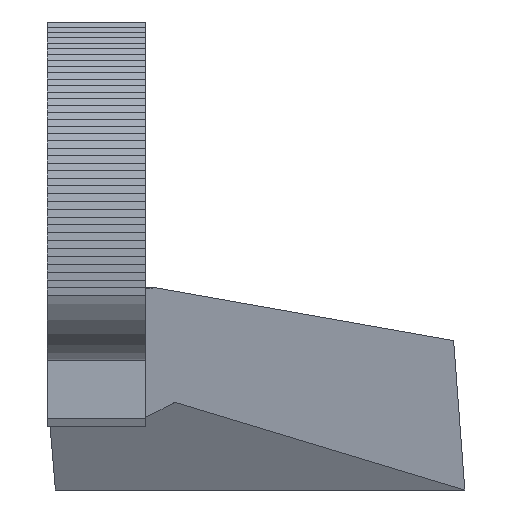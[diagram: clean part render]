
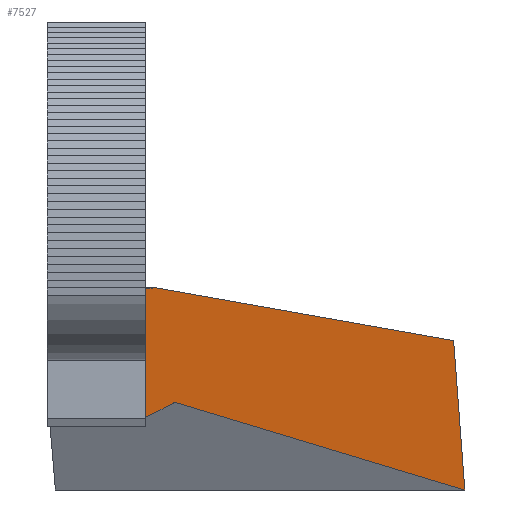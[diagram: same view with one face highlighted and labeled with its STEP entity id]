
A CAD part, top view. The second image highlights one B-rep face of the part: STEP entity #7527.
In plain terms, the highlighted planar face has unit normal (0.854, 0, 0.52).
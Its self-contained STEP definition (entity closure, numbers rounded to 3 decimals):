
#32 = PLANE('',#33);
#33 = AXIS2_PLACEMENT_3D('',#34,#35,#36);
#34 = CARTESIAN_POINT('',(-27.,-10.595,-88.));
#35 = DIRECTION('',(0.,-0.994,0.106));
#36 = DIRECTION('',(0.,0.106,0.994));
#55 = VERTEX_POINT('',#56);
#56 = CARTESIAN_POINT('',(23.626,-10.355,
    -85.746));
#69 = PLANE('',#70);
#70 = AXIS2_PLACEMENT_3D('',#71,#72,#73);
#71 = CARTESIAN_POINT('',(-60.,-68.084,-92.834));
#72 = DIRECTION('',(0.,-0.122,0.993));
#73 = DIRECTION('',(1.,0.,0.));
#80 = EDGE_CURVE('',#81,#55,#83,.T.);
#81 = VERTEX_POINT('',#82);
#82 = CARTESIAN_POINT('',(-12.781,-4.,-26.));
#83 = SURFACE_CURVE('',#84,(#88,#94),.PCURVE_S1.);
#84 = LINE('',#85,#86);
#85 = CARTESIAN_POINT('',(16.831,-9.169,
    -74.595));
#86 = VECTOR('',#87,1.);
#87 = DIRECTION('',(0.518,-0.09,-0.85)
  );
#88 = PCURVE('',#32,#89);
#89 = DEFINITIONAL_REPRESENTATION('',(#90),#93);
#90 = B_SPLINE_CURVE_WITH_KNOTS('',1,(#91,#92),.UNSPECIFIED.,.F.,.F.,(2,
    2),(-57.141,15.763),.PIECEWISE_BEZIER_KNOTS.);
#91 = CARTESIAN_POINT('',(62.35,-14.219));
#92 = CARTESIAN_POINT('',(0.,-52.));
#93 = ( GEOMETRIC_REPRESENTATION_CONTEXT(2) 
PARAMETRIC_REPRESENTATION_CONTEXT() REPRESENTATION_CONTEXT('2D SPACE',''
  ) );
#94 = PCURVE('',#95,#100);
#95 = PLANE('',#96);
#96 = AXIS2_PLACEMENT_3D('',#97,#98,#99);
#97 = CARTESIAN_POINT('',(25.,40.,-88.));
#98 = DIRECTION('',(-0.854,-0.,-0.52));
#99 = DIRECTION('',(-0.52,0.,0.854));
#100 = DEFINITIONAL_REPRESENTATION('',(#101),#104);
#101 = B_SPLINE_CURVE_WITH_KNOTS('',1,(#102,#103),.UNSPECIFIED.,.F.,.F.,
  (2,2),(-57.141,15.763),.PIECEWISE_BEZIER_KNOTS.);
#102 = CARTESIAN_POINT('',(72.605,-44.));
#103 = CARTESIAN_POINT('',(0.,-50.595));
#104 = ( GEOMETRIC_REPRESENTATION_CONTEXT(2) 
PARAMETRIC_REPRESENTATION_CONTEXT() REPRESENTATION_CONTEXT('2D SPACE',''
  ) );
#120 = PLANE('',#121);
#121 = AXIS2_PLACEMENT_3D('',#122,#123,#124);
#122 = CARTESIAN_POINT('',(-27.,-4.,-26.));
#123 = DIRECTION('',(0.,-0.998,-0.067));
#124 = DIRECTION('',(0.,-0.067,0.998));
#135 = EDGE_CURVE('',#136,#55,#138,.T.);
#136 = VERTEX_POINT('',#137);
#137 = CARTESIAN_POINT('',(24.991,-28.592,
    -87.985));
#138 = SURFACE_CURVE('',#139,(#143,#149),.PCURVE_S1.);
#139 = LINE('',#140,#141);
#140 = CARTESIAN_POINT('',(23.713,-11.514,
    -85.888));
#141 = VECTOR('',#142,1.);
#142 = DIRECTION('',(-0.074,0.99,0.122)
  );
#143 = PCURVE('',#69,#144);
#144 = DEFINITIONAL_REPRESENTATION('',(#145),#148);
#145 = B_SPLINE_CURVE_WITH_KNOTS('',1,(#146,#147),.UNSPECIFIED.,.F.,.F.,
  (2,2),(-17.256,7.592),.PIECEWISE_BEZIER_KNOTS.);
#146 = CARTESIAN_POINT('',(84.991,39.785));
#147 = CARTESIAN_POINT('',(83.151,64.565));
#148 = ( GEOMETRIC_REPRESENTATION_CONTEXT(2) 
PARAMETRIC_REPRESENTATION_CONTEXT() REPRESENTATION_CONTEXT('2D SPACE',''
  ) );
#149 = PCURVE('',#95,#150);
#150 = DEFINITIONAL_REPRESENTATION('',(#151),#154);
#151 = B_SPLINE_CURVE_WITH_KNOTS('',1,(#152,#153),.UNSPECIFIED.,.F.,.F.,
  (2,2),(-17.256,7.592),.PIECEWISE_BEZIER_KNOTS.);
#152 = CARTESIAN_POINT('',(0.017,-68.595));
#153 = CARTESIAN_POINT('',(3.554,-44.));
#154 = ( GEOMETRIC_REPRESENTATION_CONTEXT(2) 
PARAMETRIC_REPRESENTATION_CONTEXT() REPRESENTATION_CONTEXT('2D SPACE',''
  ) );
#191 = PLANE('',#192);
#192 = AXIS2_PLACEMENT_3D('',#193,#194,#195);
#193 = CARTESIAN_POINT('',(-27.,-18.,-30.));
#194 = DIRECTION('',(0.,0.984,-0.18));
#195 = DIRECTION('',(0.,-0.18,-0.984));
#633 = VERTEX_POINT('',#634);
#634 = CARTESIAN_POINT('',(-10.344,-18.,-30.));
#648 = PLANE('',#649);
#649 = AXIS2_PLACEMENT_3D('',#650,#651,#652);
#650 = CARTESIAN_POINT('',(-27.,-21.,-20.));
#651 = DIRECTION('',(-0.,0.958,0.287));
#652 = DIRECTION('',(0.,0.287,-0.958));
#660 = EDGE_CURVE('',#136,#633,#661,.T.);
#661 = SURFACE_CURVE('',#662,(#666,#672),.PCURVE_S1.);
#662 = LINE('',#663,#664);
#663 = CARTESIAN_POINT('',(2.409,-21.823,
    -50.927));
#664 = VECTOR('',#665,1.);
#665 = DIRECTION('',(-0.514,0.154,0.844));
#666 = PCURVE('',#191,#667);
#667 = DEFINITIONAL_REPRESENTATION('',(#668),#671);
#668 = B_SPLINE_CURVE_WITH_KNOTS('',1,(#669,#670),.UNSPECIFIED.,.F.,.F.,
  (2,2),(-43.939,24.803),.PIECEWISE_BEZIER_KNOTS.);
#669 = CARTESIAN_POINT('',(58.96,-52.));
#670 = CARTESIAN_POINT('',(0.,-16.656));
#671 = ( GEOMETRIC_REPRESENTATION_CONTEXT(2) 
PARAMETRIC_REPRESENTATION_CONTEXT() REPRESENTATION_CONTEXT('2D SPACE',''
  ) );
#672 = PCURVE('',#95,#673);
#673 = DEFINITIONAL_REPRESENTATION('',(#674),#677);
#674 = B_SPLINE_CURVE_WITH_KNOTS('',1,(#675,#676),.UNSPECIFIED.,.F.,.F.,
  (2,2),(-43.939,24.803),.PIECEWISE_BEZIER_KNOTS.);
#675 = CARTESIAN_POINT('',(0.,-68.595));
#676 = CARTESIAN_POINT('',(67.92,-58.));
#677 = ( GEOMETRIC_REPRESENTATION_CONTEXT(2) 
PARAMETRIC_REPRESENTATION_CONTEXT() REPRESENTATION_CONTEXT('2D SPACE',''
  ) );
#741 = VERTEX_POINT('',#742);
#742 = CARTESIAN_POINT('',(-14.,-19.8,-24.));
#755 = PLANE('',#756);
#756 = AXIS2_PLACEMENT_3D('',#757,#758,#759);
#757 = CARTESIAN_POINT('',(-14.,40.,-24.));
#758 = DIRECTION('',(-1.,0.,0.));
#759 = DIRECTION('',(0.,0.,1.));
#767 = EDGE_CURVE('',#633,#741,#768,.T.);
#768 = SURFACE_CURVE('',#769,(#773,#779),.PCURVE_S1.);
#769 = LINE('',#770,#771);
#770 = CARTESIAN_POINT('',(5.479,-10.21,
    -55.965));
#771 = VECTOR('',#772,1.);
#772 = DIRECTION('',(-0.504,-0.248,0.827));
#773 = PCURVE('',#648,#774);
#774 = DEFINITIONAL_REPRESENTATION('',(#775),#778);
#775 = B_SPLINE_CURVE_WITH_KNOTS('',1,(#776,#777),.UNSPECIFIED.,.F.,.F.,
  (2,2),(31.388,38.641),.PIECEWISE_BEZIER_KNOTS.);
#776 = CARTESIAN_POINT('',(10.44,-16.656));
#777 = CARTESIAN_POINT('',(4.176,-13.));
#778 = ( GEOMETRIC_REPRESENTATION_CONTEXT(2) 
PARAMETRIC_REPRESENTATION_CONTEXT() REPRESENTATION_CONTEXT('2D SPACE',''
  ) );
#779 = PCURVE('',#95,#780);
#780 = DEFINITIONAL_REPRESENTATION('',(#781),#784);
#781 = B_SPLINE_CURVE_WITH_KNOTS('',1,(#782,#783),.UNSPECIFIED.,.F.,.F.,
  (2,2),(31.388,38.641),.PIECEWISE_BEZIER_KNOTS.);
#782 = CARTESIAN_POINT('',(67.92,-58.));
#783 = CARTESIAN_POINT('',(74.947,-59.8));
#784 = ( GEOMETRIC_REPRESENTATION_CONTEXT(2) 
PARAMETRIC_REPRESENTATION_CONTEXT() REPRESENTATION_CONTEXT('2D SPACE',''
  ) );
#7271 = VERTEX_POINT('',#7272);
#7272 = CARTESIAN_POINT('',(-14.,-4.133,-24.));
#7292 = EDGE_CURVE('',#7271,#741,#7293,.T.);
#7293 = SURFACE_CURVE('',#7294,(#7298,#7305),.PCURVE_S1.);
#7294 = LINE('',#7295,#7296);
#7295 = CARTESIAN_POINT('',(-14.,40.,-24.));
#7296 = VECTOR('',#7297,1.);
#7297 = DIRECTION('',(0.,-1.,0.));
#7298 = PCURVE('',#755,#7299);
#7299 = DEFINITIONAL_REPRESENTATION('',(#7300),#7304);
#7300 = LINE('',#7301,#7302);
#7301 = CARTESIAN_POINT('',(0.,0.));
#7302 = VECTOR('',#7303,1.);
#7303 = DIRECTION('',(0.,-1.));
#7304 = ( GEOMETRIC_REPRESENTATION_CONTEXT(2) 
PARAMETRIC_REPRESENTATION_CONTEXT() REPRESENTATION_CONTEXT('2D SPACE',''
  ) );
#7305 = PCURVE('',#95,#7306);
#7306 = DEFINITIONAL_REPRESENTATION('',(#7307),#7311);
#7307 = LINE('',#7308,#7309);
#7308 = CARTESIAN_POINT('',(74.947,0.));
#7309 = VECTOR('',#7310,1.);
#7310 = DIRECTION('',(0.,-1.));
#7311 = ( GEOMETRIC_REPRESENTATION_CONTEXT(2) 
PARAMETRIC_REPRESENTATION_CONTEXT() REPRESENTATION_CONTEXT('2D SPACE',''
  ) );
#7527 = ADVANCED_FACE('',(#7528),#95,.F.);
#7528 = FACE_BOUND('',#7529,.F.);
#7529 = EDGE_LOOP('',(#7530,#7549,#7550,#7551,#7552,#7553));
#7530 = ORIENTED_EDGE('',*,*,#7531,.T.);
#7531 = EDGE_CURVE('',#7271,#81,#7532,.T.);
#7532 = SURFACE_CURVE('',#7533,(#7537,#7543),.PCURVE_S1.);
#7533 = LINE('',#7534,#7535);
#7534 = CARTESIAN_POINT('',(4.779,-2.079,
    -54.817));
#7535 = VECTOR('',#7536,1.);
#7536 = DIRECTION('',(0.52,0.057,-0.853)
  );
#7537 = PCURVE('',#95,#7538);
#7538 = DEFINITIONAL_REPRESENTATION('',(#7539),#7542);
#7539 = B_SPLINE_CURVE_WITH_KNOTS('',1,(#7540,#7541),.UNSPECIFIED.,.F.,
  .F.,(2,2),(-36.146,-33.8),.PIECEWISE_BEZIER_KNOTS.);
#7540 = CARTESIAN_POINT('',(74.947,-44.133));
#7541 = CARTESIAN_POINT('',(72.605,-44.));
#7542 = ( GEOMETRIC_REPRESENTATION_CONTEXT(2) 
PARAMETRIC_REPRESENTATION_CONTEXT() REPRESENTATION_CONTEXT('2D SPACE',''
  ) );
#7543 = PCURVE('',#120,#7544);
#7544 = DEFINITIONAL_REPRESENTATION('',(#7545),#7548);
#7545 = B_SPLINE_CURVE_WITH_KNOTS('',1,(#7546,#7547),.UNSPECIFIED.,.F.,
  .F.,(2,2),(-36.146,-33.8),.PIECEWISE_BEZIER_KNOTS.);
#7546 = CARTESIAN_POINT('',(2.004,-13.));
#7547 = CARTESIAN_POINT('',(0.,-14.219));
#7548 = ( GEOMETRIC_REPRESENTATION_CONTEXT(2) 
PARAMETRIC_REPRESENTATION_CONTEXT() REPRESENTATION_CONTEXT('2D SPACE',''
  ) );
#7549 = ORIENTED_EDGE('',*,*,#80,.T.);
#7550 = ORIENTED_EDGE('',*,*,#135,.F.);
#7551 = ORIENTED_EDGE('',*,*,#660,.T.);
#7552 = ORIENTED_EDGE('',*,*,#767,.T.);
#7553 = ORIENTED_EDGE('',*,*,#7292,.F.);
